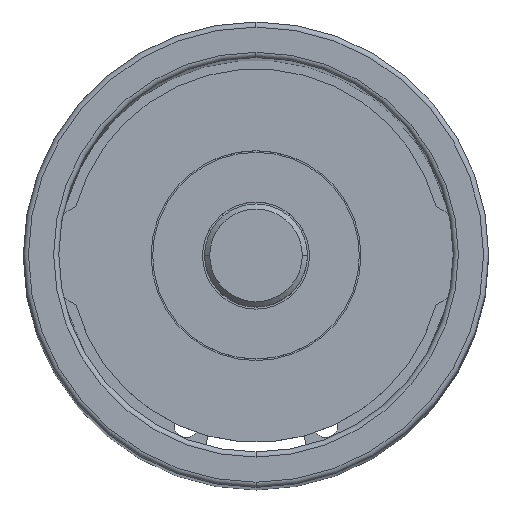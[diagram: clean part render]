
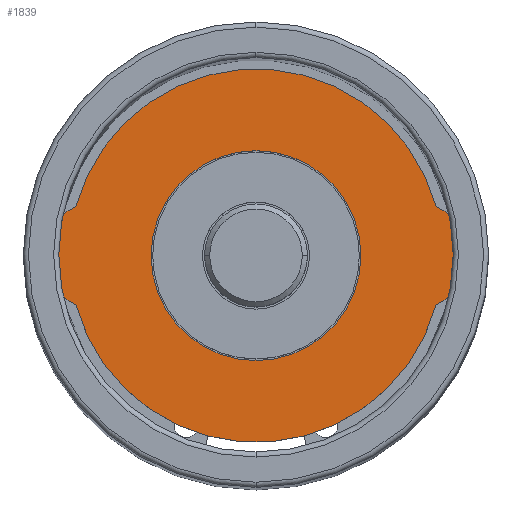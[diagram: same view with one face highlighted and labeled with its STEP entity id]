
A CAD part, top view. The second image highlights one B-rep face of the part: STEP entity #1839.
In plain terms, the highlighted planar face has unit normal (0, 0, 1).
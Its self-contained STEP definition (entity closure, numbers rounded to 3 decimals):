
#1701=CARTESIAN_POINT('',(10.2,0.,0.));
#1702=VERTEX_POINT('',#1701);
#1718=CARTESIAN_POINT('',(-10.2,0.,0.0));
#1719=VERTEX_POINT('',#1718);
#1726=CARTESIAN_POINT('',(0.0,0.,0.0));
#1727=DIRECTION('',(0.0,0.0,-1.0));
#1728=DIRECTION('',(1.0,0.0,0.0));
#1729=AXIS2_PLACEMENT_3D('',#1726,#1727,#1728);
#1730=CIRCLE('',#1729,10.2);
#1731=EDGE_CURVE('',#1702,#1719,#1730,.T.);
#1742=CARTESIAN_POINT('',(0.0,0.,0.0));
#1743=DIRECTION('',(0.0,0.0,-1.0));
#1744=DIRECTION('',(1.0,0.0,0.0));
#1745=AXIS2_PLACEMENT_3D('',#1742,#1743,#1744);
#1746=CIRCLE('',#1745,10.2);
#1747=EDGE_CURVE('',#1719,#1702,#1746,.T.);
#1767=CARTESIAN_POINT('',(-17.514,4.762,0.));
#1768=VERTEX_POINT('',#1767);
#1784=CARTESIAN_POINT('',(-17.514,-4.762,0.));
#1785=VERTEX_POINT('',#1784);
#1792=CARTESIAN_POINT('',(-15.425,0.,0.));
#1793=DIRECTION('',(0.0,0.0,-1.0));
#1794=DIRECTION('',(1.0,0.0,0.0));
#1795=AXIS2_PLACEMENT_3D('',#1792,#1793,#1794);
#1796=CIRCLE('',#1795,5.2);
#1797=EDGE_CURVE('',#1785,#1768,#1796,.T.);
#1802=CARTESIAN_POINT('',(0.0,0.,0.));
#1803=DIRECTION('',(0.0,0.0,1.0));
#1804=DIRECTION('',(1.0,0.0,0.0));
#1805=AXIS2_PLACEMENT_3D('',#1802,#1803,#1804);
#1806=PLANE('',#1805);
#1807=CARTESIAN_POINT('',(17.514,-4.762,0.));
#1808=VERTEX_POINT('',#1807);
#1809=CARTESIAN_POINT('',(0.0,0.,0.));
#1810=DIRECTION('',(0.0,0.0,-1.0));
#1811=DIRECTION('',(1.0,0.0,0.0));
#1812=AXIS2_PLACEMENT_3D('',#1809,#1810,#1811);
#1813=CIRCLE('',#1812,18.15);
#1814=EDGE_CURVE('',#1808,#1785,#1813,.T.);
#1815=ORIENTED_EDGE('',*,*,#1814,.F.);
#1816=CARTESIAN_POINT('',(17.514,4.762,0.));
#1817=VERTEX_POINT('',#1816);
#1818=CARTESIAN_POINT('',(15.425,0.,0.));
#1819=DIRECTION('',(0.0,0.0,-1.0));
#1820=DIRECTION('',(1.0,0.0,0.0));
#1821=AXIS2_PLACEMENT_3D('',#1818,#1819,#1820);
#1822=CIRCLE('',#1821,5.2);
#1823=EDGE_CURVE('',#1817,#1808,#1822,.T.);
#1824=ORIENTED_EDGE('',*,*,#1823,.F.);
#1825=CARTESIAN_POINT('',(0.0,0.,0.));
#1826=DIRECTION('',(0.0,0.0,-1.0));
#1827=DIRECTION('',(1.0,0.0,0.0));
#1828=AXIS2_PLACEMENT_3D('',#1825,#1826,#1827);
#1829=CIRCLE('',#1828,18.15);
#1830=EDGE_CURVE('',#1768,#1817,#1829,.T.);
#1831=ORIENTED_EDGE('',*,*,#1830,.F.);
#1832=ORIENTED_EDGE('',*,*,#1797,.F.);
#1833=EDGE_LOOP('',(#1815,#1824,#1831,#1832));
#1834=FACE_OUTER_BOUND('',#1833,.T.);
#1835=ORIENTED_EDGE('',*,*,#1731,.T.);
#1836=ORIENTED_EDGE('',*,*,#1747,.T.);
#1837=EDGE_LOOP('',(#1835,#1836));
#1838=FACE_BOUND('',#1837,.T.);
#1839=ADVANCED_FACE('',(#1834,#1838),#1806,.T.);
